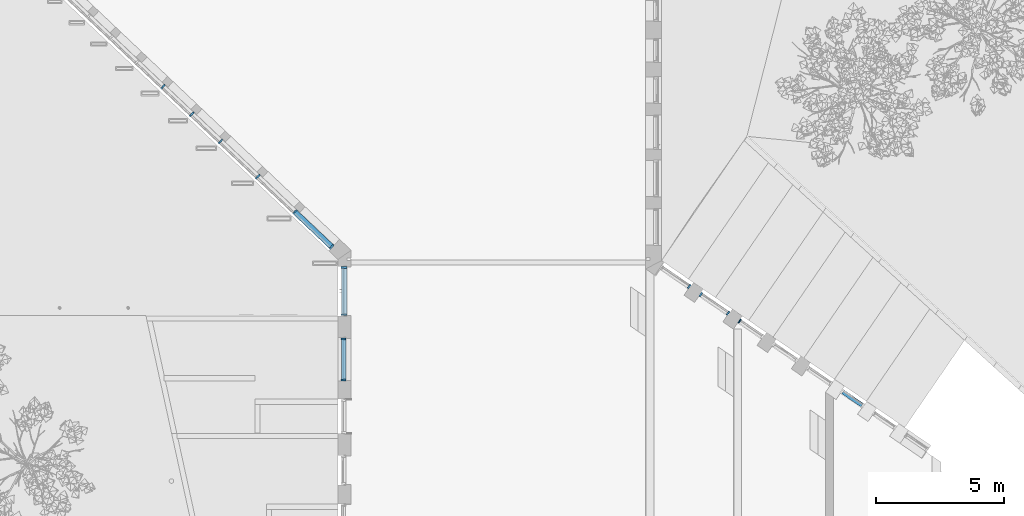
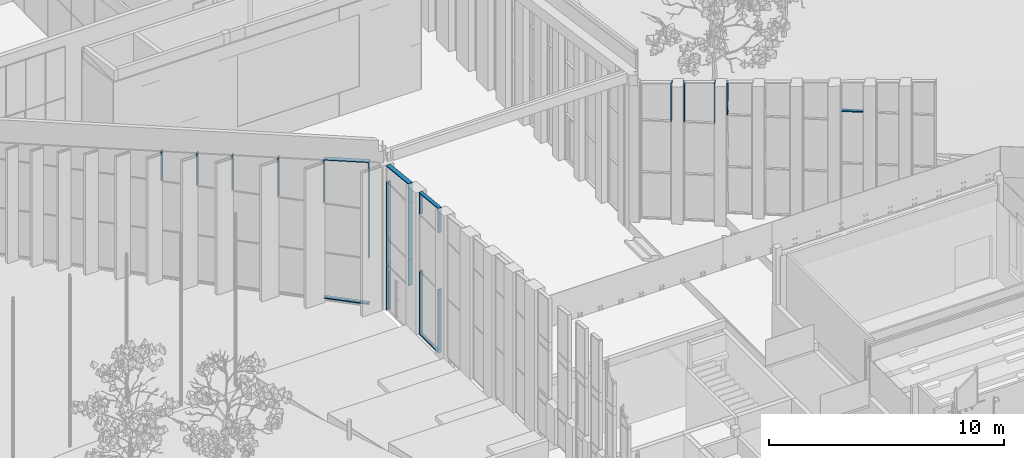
# One storey, part 62 of 246: 27 members, 7 elements without a shape of their own.
"""IFC2X3 building model written with IfcOpenShell, lengths in millimetres."""

import ifcopenshell
import ifcopenshell.guid

model = None  # the IFC model being written
_history = None  # IfcOwnerHistory: only IFC2X3 demands one
_inside = {}  # id of a spatial element -> (the spatial element, [elements in it])
_under = {}  # id of a project, library or spatial element -> (it, [spatial elements below it])
_declared = {}  # id of a project -> (the project, [libraries it declares])
_typed = {}  # id of a type object -> (the type object, [elements of that type])
_made_of = {}  # id of a material, layer set ... -> (it, [elements and type objects made of it])


def new_model(schema):
    """Start an empty IFC model of exactly this schema.

    Asked for "IFC4X3", IfcOpenShell would pick the latest addendum, in which some entities
    have other attributes; the version numbers below select the first issue.
    IFC2X3 requires an IfcOwnerHistory on every rooted entity: one is made here for all.
    """
    global model, _history
    if schema == "IFC4X3":
        model = ifcopenshell.file(schema_version=(4, 3, 0, 0))
    else:
        model = ifcopenshell.file(schema=schema)
    _inside.clear()
    _under.clear()
    _declared.clear()
    _typed.clear()
    _made_of.clear()
    _history = None
    if model.schema == "IFC2X3":
        org = make("IfcOrganization", Name="unknown")
        user = make(
            "IfcPersonAndOrganization",
            ThePerson=make("IfcPerson", FamilyName="unknown"),
            TheOrganization=org,
        )
        app = make(
            "IfcApplication",
            ApplicationDeveloper=org,
            Version="unknown",
            ApplicationFullName="unknown",
            ApplicationIdentifier="unknown",
        )
        _history = make(
            "IfcOwnerHistory",
            OwningUser=user,
            OwningApplication=app,
            ChangeAction="ADDED",
            CreationDate=0,
        )
    return model


def make(cls, **values):
    """One entity of the class cls with the attributes given. An attribute that is None is left unset."""
    return model.create_entity(
        cls, **{name: value for name, value in values.items() if value is not None}
    )


def entity(cls, *values):
    """Any entity or typed value of the class cls, its attributes in the order of the schema. None: left unset."""
    e = model.create_entity(cls)
    for i, value in enumerate(values):
        if value is not None:
            e[i] = value
    return e


def rooted(cls, **values):
    """An entity with a GlobalId (a new one), such as an element, a storey or a relation."""
    return make(cls, GlobalId=ifcopenshell.guid.new(), OwnerHistory=_history, **values)


def si_unit(unit_type, name, prefix=None):
    """IfcSIUnit, for example si_unit("LENGTHUNIT", "METRE", prefix="MILLI")."""
    return make("IfcSIUnit", UnitType=unit_type, Prefix=prefix, Name=name)


def converted_unit(unit_type, name, factor, base, dimensions=None, offset=None):
    """IfcConversionBasedUnit, such as the inch: factor (a typed value) times the base unit."""
    return make(
        "IfcConversionBasedUnit"
        if offset is None
        else "IfcConversionBasedUnitWithOffset",
        ConversionOffset=offset,
        Dimensions=None
        if dimensions is None
        else entity("IfcDimensionalExponents", *dimensions),
        UnitType=unit_type,
        Name=name,
        ConversionFactor=make(
            "IfcMeasureWithUnit", ValueComponent=factor, UnitComponent=base
        ),
    )


def derived_unit(unit_type, elements):
    """IfcDerivedUnit: a product of units, each with its exponent."""
    return make(
        "IfcDerivedUnit",
        Elements=[
            make("IfcDerivedUnitElement", Unit=unit, Exponent=power)
            for unit, power in elements
        ],
        UnitType=unit_type,
    )


def money_unit(currency):
    """IfcMonetaryUnit."""
    return make("IfcMonetaryUnit", Currency=currency)


def assignment(units):
    """IfcUnitAssignment: the units of a project."""
    return None if units is None else make("IfcUnitAssignment", Units=units)


def point(xyz):
    """IfcCartesianPoint."""
    return None if xyz is None else make("IfcCartesianPoint", Coordinates=xyz)


def direction(xyz):
    """IfcDirection."""
    return None if xyz is None else make("IfcDirection", DirectionRatios=xyz)


def frame(location, z_axis=None, x_axis=None):
    """IfcAxis2Placement3D, a coordinate frame: its origin and axes. An axis left out is left unset."""
    return make(
        "IfcAxis2Placement3D",
        Location=point(location),
        Axis=direction(z_axis),
        RefDirection=direction(x_axis),
    )


def origin_with_axes():
    """The frame at (0, 0, 0) with the z axis (0, 0, 1) and the x axis (1, 0, 0) written out."""
    return frame((0.0, 0.0, 0.0), z_axis=(0.0, 0.0, 1.0), x_axis=(1.0, 0.0, 0.0))


def place(relative_to, where):
    """IfcLocalPlacement: puts the frame where relative to a parent placement (None: the world)."""
    return make(
        "IfcLocalPlacement", PlacementRelTo=relative_to, RelativePlacement=where
    )


def context(
    kind, dimensions, precision=None, world=None, true_north=None, identifier=None
):
    """IfcGeometricRepresentationContext, for example the 3D "Model" context."""
    return make(
        "IfcGeometricRepresentationContext",
        ContextIdentifier=identifier,
        ContextType=kind,
        CoordinateSpaceDimension=dimensions,
        Precision=precision,
        WorldCoordinateSystem=world,
        TrueNorth=true_north,
    )


def subcontext(parent, identifier, kind, view, scale=None):
    """IfcGeometricRepresentationSubContext, for example "Body" below "Model"."""
    return make(
        "IfcGeometricRepresentationSubContext",
        ContextIdentifier=identifier,
        ContextType=kind,
        ParentContext=parent,
        TargetScale=scale,
        TargetView=view,
    )


def project(units=None, contexts=None):
    """IfcProject with its units and contexts."""
    return rooted(
        "IfcProject",
        Name="project",
        RepresentationContexts=contexts,
        UnitsInContext=assignment(units),
    )


def spatial(cls, under=None, at=None, **own):
    """A site, building, storey or space (cls), placed at a placement, below another one or the project."""
    s = rooted(cls, ObjectPlacement=at, **own)
    if under is not None:
        _under.setdefault(under.id(), (under, []))[1].append(s)
    return s


def faces_of(points, faces, orient=None, outer=None):
    """IfcFace entities. A face is a list of loops; a loop is a list of indices into points, from 0.

    orient and outer hold one flag for each loop. By default every Orientation is true, the
    first loop of a face is its IfcFaceOuterBound and the others are IfcFaceBound.
    """
    made = []
    for i, loops in enumerate(faces):
        bounds = []
        for j, loop in enumerate(loops):
            is_outer = j == 0 if outer is None else outer[i][j]
            bounds.append(
                make(
                    "IfcFaceOuterBound" if is_outer else "IfcFaceBound",
                    Bound=make("IfcPolyLoop", Polygon=[points[k] for k in loop]),
                    Orientation=True if orient is None else orient[i][j],
                )
            )
        made.append(make("IfcFace", Bounds=bounds))
    return made


def faceted_brep(points, faces, orient=None, outer=None, voids=None):
    """IfcFacetedBrep: a solid bounded by flat faces; with voids (closed shells), ...WithVoids."""
    shared = [point(p) for p in points]
    hull = make("IfcClosedShell", CfsFaces=faces_of(shared, faces, orient, outer))
    if voids is None:
        return make("IfcFacetedBrep", Outer=hull)
    return make(
        "IfcFacetedBrepWithVoids",
        Outer=hull,
        Voids=[
            make(cls, CfsFaces=faces_of(shared, fs, o, b)) for cls, fs, o, b in voids
        ],
    )


def shape(context_of_items, identifier, shape_type, items):
    """IfcShapeRepresentation: the items that make up one representation, for example the "Body"."""
    return make(
        "IfcShapeRepresentation",
        ContextOfItems=context_of_items,
        RepresentationIdentifier=identifier,
        RepresentationType=shape_type,
        Items=items,
    )


def material(Name=None, Category=None):
    """IfcMaterial."""
    return make("IfcMaterial", Name=Name, Category=Category)


def made_of(thing, what):
    """Note that an element or type object is made of a material, layer set ...; save() writes the relation."""
    if what is not None:
        _made_of.setdefault(what.id(), (what, []))[1].append(thing)
    return thing


def type_object(cls, material=None, **own):
    """A type object (cls), such as IfcWallType, which elements share."""
    return made_of(rooted(cls, **own), material)


def element(
    cls,
    number,
    at=None,
    inside=None,
    cuts=None,
    type_object=None,
    material=None,
    context=None,
    identifier="Body",
    shape_type=None,
    held_by="IfcProductDefinitionShape",
    body=None,
    shapes=None,
    **own,
):
    """One element of the class cls, such as IfcWall. Its Tag is "e" and its number.

    at: its placement. inside: the storey or other place that contains it. cuts: it is an
    opening in that element (IfcRelVoidsElement). A single representation is given by context,
    identifier, shape_type and body (its items); several are given by shapes. held_by: the class
    of the entity that holds the representations. save() writes the other relations.
    """
    e = rooted(cls, Tag="e%d" % number, ObjectPlacement=at, **own)
    if body is not None:
        shapes = [shape(context, identifier, shape_type, body)]
    if shapes is not None:
        e.Representation = make(held_by, Representations=shapes)
    if inside is not None:
        _inside.setdefault(inside.id(), (inside, []))[1].append(e)
    if cuts is not None:
        rooted(
            "IfcRelVoidsElement", RelatingBuildingElement=cuts, RelatedOpeningElement=e
        )
    if type_object is not None:
        _typed.setdefault(type_object.id(), (type_object, []))[1].append(e)
    return made_of(e, material)


def aggregate(whole, parts):
    """IfcRelAggregates: a whole, such as a stair, and the parts it consists of."""
    return rooted("IfcRelAggregates", RelatingObject=whole, RelatedObjects=parts)


def save(model, path):
    """Write the relations noted so far, then the file.

    IfcRelAggregates (storeys below a building ...), IfcRelContainedInSpatialStructure (elements
    in a storey), IfcRelDefinesByType, IfcRelAssociatesMaterial and IfcRelDeclares: one each for
    every whole, place, type object, material and project.
    """
    for whole, parts in _under.values():
        aggregate(whole, parts)
    for where, things in _inside.values():
        rooted(
            "IfcRelContainedInSpatialStructure",
            RelatedElements=things,
            RelatingStructure=where,
        )
    for kind, things in _typed.values():
        rooted("IfcRelDefinesByType", RelatedObjects=things, RelatingType=kind)
    for what, things in _made_of.values():
        rooted("IfcRelAssociatesMaterial", RelatedObjects=things, RelatingMaterial=what)
    for by, libraries in _declared.values():
        rooted("IfcRelDeclares", RelatingContext=by, RelatedDefinitions=libraries)
    model.write(path)


model = new_model("IFC2X3")

# Units and contexts
model_context = context("Model", 3, precision=0.01, world=origin_with_axes(), true_north=direction((0.0, 1.0)))
body_context = subcontext(model_context, "Body", "Model", "MODEL_VIEW")
ifc_project = project(units=[si_unit("LENGTHUNIT", "METRE", prefix="MILLI"), si_unit("AREAUNIT", "SQUARE_METRE"), si_unit("VOLUMEUNIT", "CUBIC_METRE"), converted_unit("PLANEANGLEUNIT", "DEGREE", entity("IfcPlaneAngleMeasure", 0.0174532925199), si_unit("PLANEANGLEUNIT", "RADIAN"), dimensions=[0, 0, 0, 0, 0, 0, 0]), si_unit("SOLIDANGLEUNIT", "STERADIAN"), money_unit("EUR"), converted_unit("TIMEUNIT", "Year", entity("IfcTimeMeasure", 31556926.0), si_unit("TIMEUNIT", "SECOND"), dimensions=[0, 0, 1, 0, 0, 0, 0]), si_unit("MASSUNIT", "GRAM", prefix="KILO"), si_unit("THERMODYNAMICTEMPERATUREUNIT", "DEGREE_CELSIUS"), si_unit("LUMINOUSINTENSITYUNIT", "LUMEN"), si_unit("ENERGYUNIT", "JOULE", prefix="MEGA"), derived_unit("THERMALCONDUCTANCEUNIT", [(si_unit("POWERUNIT", "WATT"), 1), (si_unit("LENGTHUNIT", "METRE"), -1), (si_unit("THERMODYNAMICTEMPERATUREUNIT", "KELVIN"), -1)]), derived_unit("SPECIFICHEATCAPACITYUNIT", [(si_unit("ENERGYUNIT", "JOULE"), 1), (si_unit("MASSUNIT", "GRAM", prefix="KILO"), -1), (si_unit("THERMODYNAMICTEMPERATUREUNIT", "KELVIN"), -1)]), derived_unit("MASSDENSITYUNIT", [(si_unit("MASSUNIT", "GRAM", prefix="KILO"), 1), (si_unit("VOLUMEUNIT", "CUBIC_METRE"), -1)])], contexts=[model_context])

# Site, building, storey
site_placement = place(None, origin_with_axes())
site = spatial("IfcSite", under=ifc_project, at=site_placement, Name="L.Koidula tn 11b", CompositionType="ELEMENT")
building_placement = place(site_placement, origin_with_axes())
building = spatial("IfcBuilding", under=site, at=building_placement, Name="Rakvere Riigigümnaasium", CompositionType="ELEMENT")
storey_placement = place(building_placement, origin_with_axes())
storey = spatial("IfcBuildingStorey", under=building, at=storey_placement, Name="1.korrus 0,00", CompositionType="ELEMENT", Elevation=0.0)

# Curtain wall, member
curtain_wall_type = type_object("IfcCurtainWallType", Name="Curtain Wall Type", PredefinedType="NOTDEFINED")
curtain_wall_1_placement = place(storey_placement, frame((55097.3440674, 38688.315244, 1395.00000109), z_axis=(0.0, 0.0, 1.0), x_axis=(1.0, 0.0, 0.0)))
curtain_wall_1 = element("IfcCurtainWall", 1, at=curtain_wall_1_placement, inside=storey, type_object=curtain_wall_type, Name="KLF-06-24")
ifc_material = material(Name="Alumiiniumprofiil (RAL 7021)")
member_type_1 = type_object("IfcMemberType", Name="Transom Frame 50 x 170", PredefinedType="MULLION")
member_1_placement = place(curtain_wall_1_placement, frame((-418.351684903, 286.937825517, 5100.00005693), z_axis=(0.824666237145, -0.565619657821, 0.0), x_axis=(0.0, 0.0, 1.0)))
member_1 = element("IfcMember", 2, at=member_1_placement, type_object=member_type_1, material=ifc_material, Name="KLF-06-24-Profiilid", ObjectType="MULLION", context=body_context, shape_type="Brep", body=[
    faceted_brep([(-12.0, 26.0, 964.446642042), (-12.0, -26.0, 964.446642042), (-25.0, -26.0, 964.448096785), (-25.0, -46.0, 964.448096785), (25.0, -46.0, 964.442501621), (25.0, -26.0, 964.442501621), (12.0, -26.0, 964.443956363), (12.0, 26.0, 964.443956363), (25.0, 26.0, 964.442501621), (25.0, 124.0, 964.442501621), (-25.0, 124.0, 964.448096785), (-25.0, 26.0, 964.448096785), (-12.0, 26.0, 50.0), (-12.0, -26.0, 50.0), (-25.0, -26.0, 50.0), (-25.0, -46.0, 50.0), (25.0, -46.0, 50.0), (25.0, -26.0, 50.0), (12.0, -26.0, 50.0), (12.0, 26.0, 50.0), (25.0, 26.0, 50.0), (25.0, 124.0, 50.0), (-25.0, 124.0, 50.0), (-25.0, 26.0, 50.0)], [[[0, 1, 2, 3, 4, 5, 6, 7, 8, 9, 10, 11]], [[0, 12, 13, 1]], [[1, 13, 14, 2]], [[14, 15, 3, 2]], [[4, 3, 15, 16]], [[17, 5, 4, 16]], [[5, 17, 18, 6]], [[7, 6, 18, 19]], [[8, 7, 19, 20]], [[8, 20, 21, 9]], [[10, 9, 21, 22]], [[11, 10, 22, 23]], [[11, 23, 12, 0]], [[13, 12, 23, 22, 21, 20, 19, 18, 17, 16, 15, 14]]]),
])
aggregate(curtain_wall_1, [member_1])

# Curtain wall, members
curtain_wall_2_placement = place(storey_placement, frame((35166.0871538, 40185.4556279, 444.999899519), z_axis=(0.0, 0.0, 1.0), x_axis=(1.0, 0.0, 0.0)))
curtain_wall_2 = element("IfcCurtainWall", 3, at=curtain_wall_2_placement, inside=storey, type_object=curtain_wall_type, Name="KLF-03-02")
member_type_2 = type_object("IfcMemberType", Name="Boundary Frame 50 x 170", PredefinedType="MULLION")
member_2_placement = place(curtain_wall_2_placement, frame((0.0, 824.999897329, 0.0), z_axis=(0.0, 0.0, 1.0), x_axis=(0.0, 1.0, 0.0)))
member_2 = element("IfcMember", 4, at=member_2_placement, type_object=member_type_2, material=ifc_material, Name="KLF-03-52-Profiilid", ObjectType="MULLION", context=body_context, shape_type="Brep", body=[
    faceted_brep([(-37.0, -26.0, 3300.00011735), (-50.0, -26.0, 3300.00011735), (-50.0, -124.0, 3300.00011735), (0.0, -124.0, 3300.00011735), (0.0, 46.0, 3300.00011735), (-50.0, 46.0, 3300.00011735), (-50.0, 26.0, 3300.00011735), (-37.0, 26.0, 3300.00011735), (-37.0, -26.0, 37.0), (-50.0, -26.0, 50.0), (-50.0, -124.0, 50.0), (0.0, -124.0, 0.0), (0.0, 46.0, 0.0), (-50.0, 46.0, 50.0), (-50.0, 26.0, 50.0), (-37.0, 26.0, 37.0)], [[[0, 1, 2, 3, 4, 5, 6, 7]], [[0, 8, 9, 1]], [[9, 10, 2, 1]], [[2, 10, 11, 3]], [[3, 11, 12, 4]], [[4, 12, 13, 5]], [[6, 5, 13, 14]], [[14, 15, 7, 6]], [[7, 15, 8, 0]], [[8, 15, 14, 13, 12, 11, 10, 9]]]),
])
member_3_placement = place(curtain_wall_2_placement, frame((0.0, 824.999897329, 0.0), z_axis=(0.0, -1.0, 0.0), x_axis=(0.0, 0.0, 1.0)))
member_3 = element("IfcMember", 5, at=member_3_placement, type_object=member_type_2, material=ifc_material, Name="KLF-03-45-Profiilid", ObjectType="MULLION", context=body_context, shape_type="Brep", body=[
    faceted_brep([(37.0, -26.0, 1612.99979053), (37.0, 26.0, 1612.99979053), (50.0, 26.0, 1599.99979053), (50.0, 46.0, 1599.99979053), (0.0, 46.0, 1649.99979053), (0.0, -124.0, 1649.99979053), (50.0, -124.0, 1599.99979053), (50.0, -26.0, 1599.99979053), (37.0, -26.0, 37.0), (37.0, 26.0, 37.0), (50.0, 26.0, 50.0), (50.0, 46.0, 50.0), (0.0, 46.0, 0.0), (0.0, -124.0, 0.0), (50.0, -124.0, 50.0), (50.0, -26.0, 50.0)], [[[0, 1, 2, 3, 4, 5, 6, 7]], [[1, 0, 8, 9]], [[10, 2, 1, 9]], [[2, 10, 11, 3]], [[4, 3, 11, 12]], [[5, 4, 12, 13]], [[6, 5, 13, 14]], [[15, 7, 6, 14]], [[0, 7, 15, 8]], [[8, 15, 14, 13, 12, 11, 10, 9]]]),
])
member_4_placement = place(curtain_wall_2_placement, frame((0.0, 824.999897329, 6245.00011735), z_axis=(0.0, 0.0, 1.0), x_axis=(0.0, 1.0, 0.0)))
member_4 = element("IfcMember", 6, at=member_4_placement, type_object=member_type_2, material=ifc_material, Name="KLF-03-50-Profiilid", ObjectType="MULLION", context=body_context, shape_type="Brep", body=[
    faceted_brep([(-37.0, -26.0, 1085.38247033), (-50.0, -26.0, 1073.67721852), (-50.0, -124.0, 1073.67721852), (0.0, -124.0, 1118.69741779), (0.0, 46.0, 1118.69741779), (-50.0, 46.0, 1073.67721852), (-50.0, 26.0, 1073.67721852), (-37.0, 26.0, 1085.38247033), (-37.0, -26.0, 0.0), (-50.0, -26.0, 0.0), (-50.0, -124.0, 0.0), (0.0, -124.0, 0.0), (0.0, 46.0, 0.0), (-50.0, 46.0, 0.0), (-50.0, 26.0, 0.0), (-37.0, 26.0, 0.0)], [[[0, 1, 2, 3, 4, 5, 6, 7]], [[0, 8, 9, 1]], [[9, 10, 2, 1]], [[10, 11, 3, 2]], [[11, 12, 4, 3]], [[12, 13, 5, 4]], [[6, 5, 13, 14]], [[14, 15, 7, 6]], [[7, 15, 8, 0]], [[8, 15, 14, 13, 12, 11, 10, 9]]]),
])
member_5_placement = place(curtain_wall_2_placement, frame((0.0, -824.999901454, 6245.00011735), z_axis=(0.0, 0.0, 1.0), x_axis=(0.0, 1.0, 0.0)))
member_5 = element("IfcMember", 7, at=member_5_placement, type_object=member_type_2, material=ifc_material, Name="KLF-03-48-Profiilid", ObjectType="MULLION", context=body_context, shape_type="Brep", body=[
    faceted_brep([(37.0, -26.0, 1251.02682757), (37.0, 26.0, 1251.02682757), (50.0, 26.0, 1236.58886393), (50.0, 46.0, 1236.58886393), (0.0, 46.0, 1292.1194933), (0.0, -124.0, 1292.1194933), (50.0, -124.0, 1236.58886393), (50.0, -26.0, 1236.58886393), (37.0, -26.0, -7.00455249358e-08), (37.0, 26.0, -7.00455249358e-08), (50.0, 26.0, -7.00454139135e-08), (50.0, 46.0, -7.00454139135e-08), (0.0, 46.0, -7.00454139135e-08), (0.0, -124.0, -7.00454139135e-08), (50.0, -124.0, -7.00454139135e-08), (50.0, -26.0, -7.00454139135e-08)], [[[0, 1, 2, 3, 4, 5, 6, 7]], [[1, 0, 8, 9]], [[10, 2, 1, 9]], [[2, 10, 11, 3]], [[12, 4, 3, 11]], [[13, 5, 4, 12]], [[14, 6, 5, 13]], [[15, 7, 6, 14]], [[0, 7, 15, 8]], [[8, 15, 14, 13, 12, 11, 10, 9]]]),
])
member_6_placement = place(curtain_wall_2_placement, frame((0.0, -824.999893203, 0.0), z_axis=(0.0, 0.0, 1.0), x_axis=(0.0, 1.0, 0.0)))
member_6 = element("IfcMember", 8, at=member_6_placement, type_object=member_type_2, material=ifc_material, Name="KLF-03-46-Profiilid", ObjectType="MULLION", context=body_context, shape_type="Brep", body=[
    faceted_brep([(37.0, -26.0, 3300.00011742), (37.0, 26.0, 3300.00011742), (50.0, 26.0, 3300.00011742), (50.0, 46.0, 3300.00011742), (0.0, 46.0, 3300.00011742), (0.0, -124.0, 3300.00011742), (50.0, -124.0, 3300.00011742), (50.0, -26.0, 3300.00011742), (37.0, -26.0, 37.0), (37.0, 26.0, 37.0), (50.0, 26.0, 50.0), (50.0, 46.0, 50.0), (0.0, 46.0, 0.0), (0.0, -124.0, 0.0), (50.0, -124.0, 50.0), (50.0, -26.0, 50.0)], [[[0, 1, 2, 3, 4, 5, 6, 7]], [[1, 0, 8, 9]], [[10, 2, 1, 9]], [[2, 10, 11, 3]], [[4, 3, 11, 12]], [[5, 4, 12, 13]], [[6, 5, 13, 14]], [[15, 7, 6, 14]], [[0, 7, 15, 8]], [[8, 15, 14, 13, 12, 11, 10, 9]]]),
])
member_7_placement = place(curtain_wall_2_placement, frame((0.0, -824.999901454, 7537.11961065), z_axis=(0.0, 0.994521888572, -0.104528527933), x_axis=(0.0, -0.104528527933, -0.994521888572)))
member_7 = element("IfcMember", 9, at=member_7_placement, type_object=member_type_2, material=ifc_material, Name="KLF-03-49-Profiilid", ObjectType="MULLION", context=body_context, shape_type="Brep", body=[
    faceted_brep([(37.0, -26.0, 1625.77352283), (37.0, 26.0, 1625.77352283), (50.0, 26.0, 1614.06827102), (50.0, 46.0, 1614.06827102), (0.0, 46.0, 1659.08847029), (0.0, -124.0, 1659.08847029), (50.0, -124.0, 1614.06827102), (50.0, -26.0, 1614.06827102), (37.0, -26.0, 41.0926657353), (37.0, 26.0, 41.0926657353), (50.0, 26.0, 55.530629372), (50.0, 46.0, 55.530629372), (0.0, 46.0, 0.0), (0.0, -124.0, 0.0), (50.0, -124.0, 55.530629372), (50.0, -26.0, 55.530629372)], [[[0, 1, 2, 3, 4, 5, 6, 7]], [[1, 0, 8, 9]], [[10, 2, 1, 9]], [[2, 10, 11, 3]], [[4, 3, 11, 12]], [[5, 4, 12, 13]], [[6, 5, 13, 14]], [[15, 7, 6, 14]], [[0, 7, 15, 8]], [[8, 15, 14, 13, 12, 11, 10, 9]]]),
])
aggregate(curtain_wall_2, [member_2, member_3, member_4, member_5, member_6, member_7])

# Curtain wall, member
curtain_wall_3_placement = place(storey_placement, frame((48188.9005026, 43426.6609741, 465.0), z_axis=(0.0, 0.0, 1.0), x_axis=(1.0, 0.0, 0.0)))
curtain_wall_3 = element("IfcCurtainWall", 10, at=curtain_wall_3_placement, inside=storey, type_object=curtain_wall_type, Name="KLF-06-29")
member_8_placement = place(curtain_wall_3_placement, frame((552.526342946, -378.965146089, 5100.0), z_axis=(9.07030010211e-09, -6.22111209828e-09, 1.0), x_axis=(-0.824666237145, 0.565619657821, 1.09987535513e-08)))
member_8 = element("IfcMember", 11, at=member_8_placement, type_object=member_type_2, material=ifc_material, Name="KLF-06-49-Profiilid", ObjectType="MULLION", context=body_context, shape_type="Brep", body=[
    faceted_brep([(37.0000217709, 26.0, 1979.39665794), (50.0000216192, 26.0, 1965.6010397), (50.0000216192, 124.0, 1965.6010397), (2.22027516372e-05, 124.0, 2018.66110987), (2.22027551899e-05, -46.0, 2018.66110987), (50.0000216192, -46.0, 1965.6010397), (50.0000216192, -26.0, 1965.6010397), (37.0000217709, -26.0, 1979.39665794), (37.0, 26.0, -4.87831108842e-07), (50.0, 26.0, -6.30815399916e-07), (50.0, 124.0, -6.30815399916e-07), (0.0, 124.0, -8.08775268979e-08), (0.0, -46.0, -8.08775268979e-08), (50.0, -46.0, -6.30815399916e-07), (50.0, -26.0, -6.30815399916e-07), (37.0, -26.0, -4.87831108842e-07)], [[[0, 1, 2, 3, 4, 5, 6, 7]], [[0, 8, 9, 1]], [[9, 10, 2, 1]], [[10, 11, 3, 2]], [[11, 12, 4, 3]], [[12, 13, 5, 4]], [[6, 5, 13, 14]], [[14, 15, 7, 6]], [[7, 15, 8, 0]], [[8, 15, 14, 13, 12, 11, 10, 9]]]),
])
aggregate(curtain_wall_3, [member_8])

# Curtain wall, members
curtain_wall_4_placement = place(storey_placement, frame((49706.2862445, 42385.9208959, 465.0), z_axis=(0.0, 0.0, 1.0), x_axis=(1.0, 0.0, 0.0)))
curtain_wall_4 = element("IfcCurtainWall", 12, at=curtain_wall_4_placement, inside=storey, type_object=curtain_wall_type, Name="KLF-06-28")
member_9_placement = place(curtain_wall_4_placement, frame((-552.526384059, 378.965174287, 5100.0), z_axis=(0.0, 0.0, 1.0), x_axis=(-0.824666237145, 0.565619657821, 0.0)))
member_9 = element("IfcMember", 13, at=member_9_placement, type_object=member_type_2, material=ifc_material, Name="KLF-06-49-Profiilid", ObjectType="MULLION", context=body_context, shape_type="Brep", body=[
    faceted_brep([(-37.0, 26.0, 2013.5131106), (-37.0, -26.0, 2013.5131106), (-50.0, -26.0, 2001.26284374), (-50.0, -46.0, 2001.26284374), (0.0, -46.0, 2048.37925473), (0.0, 124.0, 2048.37925473), (-50.0, 124.0, 2001.26284374), (-50.0, 26.0, 2001.26284374), (-37.0, 26.0, 0.0), (-37.0, -26.0, 0.0), (-50.0, -26.0, 0.0), (-50.0, -46.0, 0.0), (0.0, -46.0, 0.0), (0.0, 124.0, 0.0), (-50.0, 124.0, 0.0), (-50.0, 26.0, 0.0)], [[[0, 1, 2, 3, 4, 5, 6, 7]], [[1, 0, 8, 9]], [[10, 2, 1, 9]], [[2, 10, 11, 3]], [[12, 4, 3, 11]], [[13, 5, 4, 12]], [[14, 6, 5, 13]], [[15, 7, 6, 14]], [[0, 7, 15, 8]], [[8, 15, 14, 13, 12, 11, 10, 9]]]),
])
member_10_placement = place(curtain_wall_4_placement, frame((552.526365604, -378.96516163, 5100.0), z_axis=(9.35485957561e-09, -6.41628132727e-09, 1.0), x_axis=(-0.824666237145, 0.565619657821, 1.1343811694e-08)))
member_10 = element("IfcMember", 14, at=member_10_placement, type_object=member_type_2, material=ifc_material, Name="KLF-06-47-Profiilid", ObjectType="MULLION", context=body_context, shape_type="Brep", body=[
    faceted_brep([(37.0000236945, 26.0, 2088.75981612), (50.000023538, 26.0, 2074.96419797), (50.000023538, 124.0, 2074.96419797), (2.41399114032e-05, 124.0, 2128.02426776), (2.41399078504e-05, -46.0, 2128.02426776), (50.000023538, -46.0, 2074.96419797), (50.000023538, -26.0, 2074.96419797), (37.0000236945, -26.0, 2088.75981612), (37.0, 26.0, -1.11773879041e-06), (50.0, 26.0, -1.26520838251e-06), (50.0, 124.0, -1.26520838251e-06), (0.0, 124.0, -6.98017643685e-07), (0.0, -46.0, -6.98017643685e-07), (50.0, -46.0, -1.26520749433e-06), (50.0, -26.0, -1.26520838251e-06), (37.0, -26.0, -1.11773879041e-06)], [[[0, 1, 2, 3, 4, 5, 6, 7]], [[0, 8, 9, 1]], [[9, 10, 2, 1]], [[10, 11, 3, 2]], [[11, 12, 4, 3]], [[12, 13, 5, 4]], [[6, 5, 13, 14]], [[14, 15, 7, 6]], [[7, 15, 8, 0]], [[8, 15, 14, 13, 12, 11, 10, 9]]]),
])
aggregate(curtain_wall_4, [member_9, member_10])

# Curtain wall, member
curtain_wall_5_placement = place(storey_placement, frame((51132.8497103, 41407.4731801, 929.821783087), z_axis=(0.0, 0.0, 1.0), x_axis=(1.0, 0.0, 0.0)))
curtain_wall_5 = element("IfcCurtainWall", 15, at=curtain_wall_5_placement, inside=storey, type_object=curtain_wall_type, Name="KLF-06-27")
member_11_placement = place(curtain_wall_5_placement, frame((-461.812978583, 316.74693004, 6792.87663199), z_axis=(8.25001944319e-09, -5.65849835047e-09, -1.0), x_axis=(0.824666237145, -0.565619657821, 1.00040703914e-08)))
member_11 = element("IfcMember", 16, at=member_11_placement, type_object=member_type_2, material=ifc_material, Name="KLF-06-48-Profiilid", ObjectType="MULLION", context=body_context, shape_type="Brep", body=[
    faceted_brep([(36.9999830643, 26.0, 1692.87656815), (49.9999830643, 26.0, 1692.87656828), (49.9999830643, 124.0, 1692.87656828), (-1.69356617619e-05, 124.0, 1692.87656778), (-1.69356582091e-05, -46.0, 1692.87656778), (49.9999830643, -46.0, 1692.87656828), (49.9999830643, -26.0, 1692.87656828), (36.9999830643, -26.0, 1692.87656815), (36.9999996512, 26.0, 34.8661421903), (49.9999995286, 26.0, 47.1164083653), (49.9999995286, 124.0, 47.1164083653), (0.0, 124.0, 0.0), (0.0, -46.0, 0.0), (49.9999995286, -46.0, 47.1164083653), (49.9999995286, -26.0, 47.1164083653), (36.9999996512, -26.0, 34.8661421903)], [[[0, 1, 2, 3, 4, 5, 6, 7]], [[0, 8, 9, 1]], [[9, 10, 2, 1]], [[2, 10, 11, 3]], [[3, 11, 12, 4]], [[4, 12, 13, 5]], [[6, 5, 13, 14]], [[14, 15, 7, 6]], [[7, 15, 8, 0]], [[8, 15, 14, 13, 12, 11, 10, 9]]]),
])
aggregate(curtain_wall_5, [member_11])

# Curtain wall, members
curtain_wall_6_placement = place(storey_placement, frame((33997.0353268, 45217.6604975, 0.0), z_axis=(0.0, 0.0, 1.0), x_axis=(1.0, 0.0, 0.0)))
curtain_wall_6 = element("IfcCurtainWall", 17, at=curtain_wall_6_placement, inside=storey, type_object=curtain_wall_type, Name="KLF-02")
member_type_3 = type_object("IfcMemberType", Name="Mullion Frame 50 x 210", PredefinedType="MULLION")
member_12_placement = place(curtain_wall_6_placement, frame((-725.960229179, 687.736683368, 4950.00031279), z_axis=(0.0, 0.0, 1.0), x_axis=(0.725960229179, -0.687736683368, 0.0)))
member_12 = element("IfcMember", 18, at=member_12_placement, type_object=member_type_3, material=ifc_material, Name="KLF-45-Profiilid", ObjectType="MULLION", context=body_context, shape_type="Brep", body=[
    faceted_brep([(-12.0, 26.0, 2230.74192099), (-12.0, -26.0, 2230.74192099), (-25.0, -26.0, 2229.46014797), (-25.0, -56.0, 2229.46014797), (25.0, -56.0, 2234.39004419), (25.0, -26.0, 2234.39004419), (12.0, -26.0, 2233.10827118), (12.0, 26.0, 2233.10827118), (25.0, 26.0, 2234.39004419), (25.0, 154.0, 2234.39004419), (-25.0, 154.0, 2229.46014797), (-25.0, 26.0, 2229.46014797), (-12.0, 26.0, 0.0), (-12.0, -26.0, 0.0), (-25.0, -26.0, 0.0), (-25.0, -56.0, 0.0), (25.0, -56.0, 0.0), (25.0, -26.0, 0.0), (12.0, -26.0, 0.0), (12.0, 26.0, 0.0), (25.0, 26.0, 0.0), (25.0, 154.0, 0.0), (-25.0, 154.0, 0.0), (-25.0, 26.0, 0.0)], [[[0, 1, 2, 3, 4, 5, 6, 7, 8, 9, 10, 11]], [[0, 12, 13, 1]], [[1, 13, 14, 2]], [[14, 15, 3, 2]], [[3, 15, 16, 4]], [[17, 5, 4, 16]], [[5, 17, 18, 6]], [[7, 6, 18, 19]], [[8, 7, 19, 20]], [[8, 20, 21, 9]], [[9, 21, 22, 10]], [[11, 10, 22, 23]], [[11, 23, 12, 0]], [[13, 12, 23, 22, 21, 20, 19, 18, 17, 16, 15, 14]]]),
])
member_13_placement = place(curtain_wall_6_placement, frame((-2177.88068754, 2063.21005011, 4950.00031279), z_axis=(0.0, 0.0, 1.0), x_axis=(0.725960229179, -0.687736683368, 0.0)))
member_13 = element("IfcMember", 19, at=member_13_placement, type_object=member_type_3, material=ifc_material, Name="KLF-46-Profiilid", ObjectType="MULLION", context=body_context, shape_type="Brep", body=[
    faceted_brep([(-12.0, 26.0, 2033.54607216), (-12.0, -26.0, 2033.54607216), (-25.0, -26.0, 2032.26429915), (-25.0, -56.0, 2032.26429915), (25.0, -56.0, 2037.19419537), (25.0, -26.0, 2037.19419537), (12.0, -26.0, 2035.91242235), (12.0, 26.0, 2035.91242235), (25.0, 26.0, 2037.19419537), (25.0, 154.0, 2037.19419537), (-25.0, 154.0, 2032.26429915), (-25.0, 26.0, 2032.26429915), (-12.0, 26.0, 0.0), (-12.0, -26.0, 0.0), (-25.0, -26.0, 0.0), (-25.0, -56.0, 0.0), (25.0, -56.0, 0.0), (25.0, -26.0, 0.0), (12.0, -26.0, 0.0), (12.0, 26.0, 0.0), (25.0, 26.0, 0.0), (25.0, 154.0, 0.0), (-25.0, 154.0, 0.0), (-25.0, 26.0, 0.0)], [[[0, 1, 2, 3, 4, 5, 6, 7, 8, 9, 10, 11]], [[0, 12, 13, 1]], [[1, 13, 14, 2]], [[14, 15, 3, 2]], [[3, 15, 16, 4]], [[17, 5, 4, 16]], [[5, 17, 18, 6]], [[7, 6, 18, 19]], [[8, 7, 19, 20]], [[8, 20, 21, 9]], [[9, 21, 22, 10]], [[11, 10, 22, 23]], [[11, 23, 12, 0]], [[13, 12, 23, 22, 21, 20, 19, 18, 17, 16, 15, 14]]]),
])
member_14_placement = place(curtain_wall_6_placement, frame((-3629.80114589, 3438.68341684, 4950.00031279), z_axis=(0.0, 0.0, 1.0), x_axis=(0.725960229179, -0.687736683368, 0.0)))
member_14 = element("IfcMember", 20, at=member_14_placement, type_object=member_type_3, material=ifc_material, Name="KLF-47-Profiilid", ObjectType="MULLION", context=body_context, shape_type="Brep", body=[
    faceted_brep([(-12.0, 26.0, 1836.35022333), (-12.0, -26.0, 1836.35022333), (-25.0, -26.0, 1835.06845032), (-25.0, -56.0, 1835.06845032), (25.0, -56.0, 1839.99834654), (25.0, -26.0, 1839.99834654), (12.0, -26.0, 1838.71657352), (12.0, 26.0, 1838.71657352), (25.0, 26.0, 1839.99834654), (25.0, 154.0, 1839.99834654), (-25.0, 154.0, 1835.06845032), (-25.0, 26.0, 1835.06845032), (-12.0, 26.0, 0.0), (-12.0, -26.0, 0.0), (-25.0, -26.0, 0.0), (-25.0, -56.0, 0.0), (25.0, -56.0, 0.0), (25.0, -26.0, 0.0), (12.0, -26.0, 0.0), (12.0, 26.0, 0.0), (25.0, 26.0, 0.0), (25.0, 154.0, 0.0), (-25.0, 154.0, 0.0), (-25.0, 26.0, 0.0)], [[[0, 1, 2, 3, 4, 5, 6, 7, 8, 9, 10, 11]], [[0, 12, 13, 1]], [[1, 13, 14, 2]], [[14, 15, 3, 2]], [[3, 15, 16, 4]], [[17, 5, 4, 16]], [[5, 17, 18, 6]], [[7, 6, 18, 19]], [[8, 7, 19, 20]], [[8, 20, 21, 9]], [[9, 21, 22, 10]], [[11, 10, 22, 23]], [[11, 23, 12, 0]], [[13, 12, 23, 22, 21, 20, 19, 18, 17, 16, 15, 14]]]),
])
member_15_placement = place(curtain_wall_6_placement, frame((-4755.03950112, 4504.67527606, 4950.00031279), z_axis=(0.0, 0.0, 1.0), x_axis=(0.725960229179, -0.687736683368, 0.0)))
member_15 = element("IfcMember", 21, at=member_15_placement, type_object=member_type_3, material=ifc_material, Name="KLF-48-Profiilid", ObjectType="MULLION", context=body_context, shape_type="Brep", body=[
    faceted_brep([(-12.0, 26.0, 1683.52344049), (-12.0, -26.0, 1683.52344049), (-25.0, -26.0, 1682.24166747), (-25.0, -56.0, 1682.24166747), (25.0, -56.0, 1687.1715637), (25.0, -26.0, 1687.1715637), (12.0, -26.0, 1685.88979068), (12.0, 26.0, 1685.88979068), (25.0, 26.0, 1687.1715637), (25.0, 154.0, 1687.1715637), (-25.0, 154.0, 1682.24166747), (-25.0, 26.0, 1682.24166747), (-12.0, 26.0, 0.0), (-12.0, -26.0, 0.0), (-25.0, -26.0, 0.0), (-25.0, -56.0, 0.0), (25.0, -56.0, 0.0), (25.0, -26.0, 0.0), (12.0, -26.0, 0.0), (12.0, 26.0, 0.0), (25.0, 26.0, 0.0), (25.0, 154.0, 0.0), (-25.0, 154.0, 0.0), (-25.0, 26.0, 0.0)], [[[0, 1, 2, 3, 4, 5, 6, 7, 8, 9, 10, 11]], [[0, 12, 13, 1]], [[1, 13, 14, 2]], [[14, 15, 3, 2]], [[3, 15, 16, 4]], [[17, 5, 4, 16]], [[5, 17, 18, 6]], [[7, 6, 18, 19]], [[8, 7, 19, 20]], [[8, 20, 21, 9]], [[9, 21, 22, 10]], [[11, 10, 22, 23]], [[11, 23, 12, 0]], [[13, 12, 23, 22, 21, 20, 19, 18, 17, 16, 15, 14]]]),
])
member_16_placement = place(curtain_wall_6_placement, frame((-5880.27785635, 5570.66713528, 4950.00031279), z_axis=(0.0, 0.0, 1.0), x_axis=(0.725960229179, -0.687736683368, 0.0)))
member_16 = element("IfcMember", 22, at=member_16_placement, type_object=member_type_3, material=ifc_material, Name="KLF-49-Profiilid", ObjectType="MULLION", context=body_context, shape_type="Brep", body=[
    faceted_brep([(-12.0, 26.0, 1530.69665765), (-12.0, -26.0, 1530.69665765), (-25.0, -26.0, 1529.41488463), (-25.0, -56.0, 1529.41488463), (25.0, -56.0, 1534.34478085), (25.0, -26.0, 1534.34478085), (12.0, -26.0, 1533.06300784), (12.0, 26.0, 1533.06300784), (25.0, 26.0, 1534.34478085), (25.0, 154.0, 1534.34478085), (-25.0, 154.0, 1529.41488463), (-25.0, 26.0, 1529.41488463), (-12.0, 26.0, 0.0), (-12.0, -26.0, 0.0), (-25.0, -26.0, 0.0), (-25.0, -56.0, 0.0), (25.0, -56.0, 0.0), (25.0, -26.0, 0.0), (12.0, -26.0, 0.0), (12.0, 26.0, 0.0), (25.0, 26.0, 0.0), (25.0, 154.0, 0.0), (-25.0, 154.0, 0.0), (-25.0, 26.0, 0.0)], [[[0, 1, 2, 3, 4, 5, 6, 7, 8, 9, 10, 11]], [[0, 12, 13, 1]], [[1, 13, 14, 2]], [[14, 15, 3, 2]], [[3, 15, 16, 4]], [[17, 5, 4, 16]], [[5, 17, 18, 6]], [[7, 6, 18, 19]], [[8, 7, 19, 20]], [[8, 20, 21, 9]], [[9, 21, 22, 10]], [[11, 10, 22, 23]], [[11, 23, 12, 0]], [[13, 12, 23, 22, 21, 20, 19, 18, 17, 16, 15, 14]]]),
])
member_type_4 = type_object("IfcMemberType", Name="Boundary Frame 50 x 210", PredefinedType="MULLION")
member_17_placement = place(curtain_wall_6_placement, frame((725.960229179, -687.736683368, 0.0), z_axis=(-0.725960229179, 0.687736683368, 0.0), x_axis=(0.0, 0.0, 1.0)))
member_17 = element("IfcMember", 23, at=member_17_placement, type_object=member_type_4, material=ifc_material, Name="KLF-89-Profiilid", ObjectType="MULLION", context=body_context, shape_type="Brep", body=[
    faceted_brep([(37.0, 26.0, 2000.0), (50.0, 26.0, 2000.0), (50.0, 154.0, 2000.0), (0.0, 154.0, 2000.0), (0.0, -56.0, 2000.0), (50.0, -56.0, 2000.0), (50.0, -26.0, 2000.0), (37.0, -26.0, 2000.0), (37.0, 26.0, 37.0), (50.0, 26.0, 50.0), (50.0, 154.0, 50.0), (0.0, 154.0, 0.0), (0.0, -56.0, 0.0), (50.0, -56.0, 50.0), (50.0, -26.0, 50.0), (37.0, -26.0, 37.0)], [[[0, 1, 2, 3, 4, 5, 6, 7]], [[0, 8, 9, 1]], [[9, 10, 2, 1]], [[2, 10, 11, 3]], [[3, 11, 12, 4]], [[4, 12, 13, 5]], [[6, 5, 13, 14]], [[14, 15, 7, 6]], [[7, 15, 8, 0]], [[8, 15, 14, 13, 12, 11, 10, 9]]]),
])
member_18_placement = place(curtain_wall_6_placement, frame((725.960229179, -687.736683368, 2400.00031279), z_axis=(0.0, 0.0, 1.0), x_axis=(0.725960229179, -0.687736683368, 0.0)))
member_18 = element("IfcMember", 24, at=member_18_placement, type_object=member_type_4, material=ifc_material, Name="KLF-28-Profiilid", ObjectType="MULLION", context=body_context, shape_type="Brep", body=[
    faceted_brep([(-37.0, 26.0, 2550.0), (-37.0, -26.0, 2550.0), (-50.0, -26.0, 2550.0), (-50.0, -56.0, 2550.0), (0.0, -56.0, 2550.0), (0.0, 154.0, 2550.0), (-50.0, 154.0, 2550.0), (-50.0, 26.0, 2550.0), (-37.0, 26.0, 0.0), (-37.0, -26.0, 0.0), (-50.0, -26.0, 0.0), (-50.0, -56.0, 0.0), (0.0, -56.0, 0.0), (0.0, 154.0, 0.0), (-50.0, 154.0, 0.0), (-50.0, 26.0, 0.0)], [[[0, 1, 2, 3, 4, 5, 6, 7]], [[1, 0, 8, 9]], [[10, 2, 1, 9]], [[2, 10, 11, 3]], [[12, 4, 3, 11]], [[13, 5, 4, 12]], [[14, 6, 5, 13]], [[15, 7, 6, 14]], [[0, 7, 15, 8]], [[8, 15, 14, 13, 12, 11, 10, 9]]]),
])
member_19_placement = place(curtain_wall_6_placement, frame((725.960229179, -687.736683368, 4950.00031279), z_axis=(0.0, 0.0, 1.0), x_axis=(0.725960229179, -0.687736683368, 0.0)))
member_19 = element("IfcMember", 25, at=member_19_placement, type_object=member_type_4, material=ifc_material, Name="KLF-27-Profiilid", ObjectType="MULLION", context=body_context, shape_type="Brep", body=[
    faceted_brep([(-37.0, 26.0, 2438.53585895), (-37.0, -26.0, 2438.53585895), (-50.0, -26.0, 2424.19104869), (-50.0, -56.0, 2424.19104869), (0.0, -56.0, 2479.36339586), (0.0, 154.0, 2479.36339586), (-50.0, 154.0, 2424.19104869), (-50.0, 26.0, 2424.19104869), (-37.0, 26.0, 0.0), (-37.0, -26.0, 0.0), (-50.0, -26.0, 0.0), (-50.0, -56.0, 0.0), (0.0, -56.0, 0.0), (0.0, 154.0, 0.0), (-50.0, 154.0, 0.0), (-50.0, 26.0, 0.0)], [[[0, 1, 2, 3, 4, 5, 6, 7]], [[1, 0, 8, 9]], [[10, 2, 1, 9]], [[2, 10, 11, 3]], [[12, 4, 3, 11]], [[13, 5, 4, 12]], [[14, 6, 5, 13]], [[15, 7, 6, 14]], [[0, 7, 15, 8]], [[8, 15, 14, 13, 12, 11, 10, 9]]]),
])
member_20_placement = place(curtain_wall_6_placement, frame((-725.960229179, 687.736683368, 7232.16785981), z_axis=(0.722457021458, -0.68441792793, 0.0981221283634), x_axis=(0.0712327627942, -0.0674821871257, -0.995174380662)))
member_20 = element("IfcMember", 26, at=member_20_placement, type_object=member_type_4, material=ifc_material, Name="KLF-26-Profiilid", ObjectType="MULLION", context=body_context, shape_type="Brep", body=[
    faceted_brep([(37.0, 26.0, 1968.87050081), (50.0, 26.0, 1954.52569055), (50.0, 154.0, 1954.52569055), (0.0, 154.0, 2009.69803771), (0.0, -56.0, 2009.69803771), (50.0, -56.0, 1954.52569055), (50.0, -26.0, 1954.52569055), (37.0, -26.0, 1968.87050081), (37.0, 26.0, 0.0), (50.0, 26.0, 0.0), (50.0, 154.0, 0.0), (0.0, 154.0, 0.0), (0.0, -56.0, 0.0), (50.0, -56.0, 0.0), (50.0, -26.0, 0.0), (37.0, -26.0, 0.0)], [[[0, 1, 2, 3, 4, 5, 6, 7]], [[0, 8, 9, 1]], [[9, 10, 2, 1]], [[10, 11, 3, 2]], [[11, 12, 4, 3]], [[12, 13, 5, 4]], [[6, 5, 13, 14]], [[14, 15, 7, 6]], [[7, 15, 8, 0]], [[8, 15, 14, 13, 12, 11, 10, 9]]]),
])
aggregate(curtain_wall_6, [member_17, member_18, member_19, member_20, member_12, member_13, member_14, member_15, member_16])

curtain_wall_7_placement = place(storey_placement, frame((35176.0871233, 42850.4555755, -0.000136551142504), z_axis=(0.0, 0.0, 1.0), x_axis=(1.0, 0.0, 0.0)))
curtain_wall_7 = element("IfcCurtainWall", 27, at=curtain_wall_7_placement, inside=storey, type_object=curtain_wall_type, Name="KLF-03-01")
member_21_placement = place(curtain_wall_7_placement, frame((0.0, 949.999916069, 0.0), z_axis=(0.0, 0.0, 1.0), x_axis=(0.0, 1.0, 0.0)))
member_21 = element("IfcMember", 28, at=member_21_placement, type_object=member_type_4, material=ifc_material, Name="KLF-03-20-Profiilid", ObjectType="MULLION", context=body_context, shape_type="Brep", body=[
    faceted_brep([(-37.0, -26.0, 2400.00012036), (-50.0, -26.0, 2400.00012036), (-50.0, -154.0, 2400.00012036), (0.0, -154.0, 2400.00012036), (0.0, 56.0, 2400.00012036), (-50.0, 56.0, 2400.00012036), (-50.0, 26.0, 2400.00012036), (-37.0, 26.0, 2400.00012036), (-37.0, -26.0, 0.0), (-50.0, -26.0, 0.0), (-50.0, -154.0, 0.0), (0.0, -154.0, 0.0), (0.0, 56.0, 0.0), (-50.0, 56.0, 0.0), (-50.0, 26.0, 0.0), (-37.0, 26.0, 0.0)], [[[0, 1, 2, 3, 4, 5, 6, 7]], [[0, 8, 9, 1]], [[9, 10, 2, 1]], [[10, 11, 3, 2]], [[11, 12, 4, 3]], [[12, 13, 5, 4]], [[6, 5, 13, 14]], [[14, 15, 7, 6]], [[7, 15, 8, 0]], [[8, 15, 14, 13, 12, 11, 10, 9]]]),
])
member_22_placement = place(curtain_wall_7_placement, frame((0.0, 949.999916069, 2400.00012036), z_axis=(0.0, 0.0, 1.0), x_axis=(0.0, 1.0, 0.0)))
member_22 = element("IfcMember", 29, at=member_22_placement, type_object=member_type_4, material=ifc_material, Name="KLF-03-19-Profiilid", ObjectType="MULLION", context=body_context, shape_type="Brep", body=[
    faceted_brep([(-37.0, -26.0, 1345.0), (-50.0, -26.0, 1345.0), (-50.0, -154.0, 1345.0), (0.0, -154.0, 1345.0), (0.0, 56.0, 1345.0), (-50.0, 56.0, 1345.0), (-50.0, 26.0, 1345.0), (-37.0, 26.0, 1345.0), (-37.0, -26.0, 0.0), (-50.0, -26.0, 0.0), (-50.0, -154.0, 0.0), (0.0, -154.0, 0.0), (0.0, 56.0, 0.0), (-50.0, 56.0, 0.0), (-50.0, 26.0, 0.0), (-37.0, 26.0, 0.0)], [[[0, 1, 2, 3, 4, 5, 6, 7]], [[0, 8, 9, 1]], [[9, 10, 2, 1]], [[10, 11, 3, 2]], [[11, 12, 4, 3]], [[12, 13, 5, 4]], [[6, 5, 13, 14]], [[14, 15, 7, 6]], [[7, 15, 8, 0]], [[8, 15, 14, 13, 12, 11, 10, 9]]]),
])
member_23_placement = place(curtain_wall_7_placement, frame((0.0, 949.999916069, 3745.00012036), z_axis=(0.0, 0.0, 1.0), x_axis=(0.0, 1.0, 0.0)))
member_23 = element("IfcMember", 30, at=member_23_placement, type_object=member_type_4, material=ifc_material, Name="KLF-03-18-Profiilid", ObjectType="MULLION", context=body_context, shape_type="Brep", body=[
    faceted_brep([(-37.0, -26.0, 2945.0), (-50.0, -26.0, 2945.0), (-50.0, -154.0, 2945.0), (0.0, -154.0, 2945.0), (0.0, 56.0, 2945.0), (-50.0, 56.0, 2945.0), (-50.0, 26.0, 2945.0), (-37.0, 26.0, 2945.0), (-37.0, -26.0, 0.0), (-50.0, -26.0, 0.0), (-50.0, -154.0, 0.0), (0.0, -154.0, 0.0), (0.0, 56.0, 0.0), (-50.0, 56.0, 0.0), (-50.0, 26.0, 0.0), (-37.0, 26.0, 0.0)], [[[0, 1, 2, 3, 4, 5, 6, 7]], [[0, 8, 9, 1]], [[9, 10, 2, 1]], [[10, 11, 3, 2]], [[11, 12, 4, 3]], [[12, 13, 5, 4]], [[6, 5, 13, 14]], [[14, 15, 7, 6]], [[7, 15, 8, 0]], [[8, 15, 14, 13, 12, 11, 10, 9]]]),
])
member_24_placement = place(curtain_wall_7_placement, frame((0.0, -949.999916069, 6690.00012036), z_axis=(0.0, 0.0, 1.0), x_axis=(0.0, 1.0, 0.0)))
member_24 = element("IfcMember", 31, at=member_24_placement, type_object=member_type_4, material=ifc_material, Name="KLF-03-15-Profiilid", ObjectType="MULLION", context=body_context, shape_type="Brep", body=[
    faceted_brep([(37.0, -26.0, 984.062121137), (37.0, 26.0, 984.062121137), (50.0, 26.0, 969.624158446), (50.0, 56.0, 969.624158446), (0.0, 56.0, 1025.15478418), (0.0, -154.0, 1025.15478418), (50.0, -154.0, 969.624158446), (50.0, -26.0, 969.624158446), (37.0, -26.0, -3.39555938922e-07), (37.0, 26.0, -3.39555938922e-07), (50.0, 26.0, -3.395558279e-07), (50.0, 56.0, -3.395558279e-07), (0.0, 56.0, -3.395558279e-07), (0.0, -154.0, -3.395558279e-07), (50.0, -154.0, -3.395558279e-07), (50.0, -26.0, -3.395558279e-07)], [[[0, 1, 2, 3, 4, 5, 6, 7]], [[1, 0, 8, 9]], [[10, 2, 1, 9]], [[2, 10, 11, 3]], [[12, 4, 3, 11]], [[13, 5, 4, 12]], [[14, 6, 5, 13]], [[15, 7, 6, 14]], [[0, 7, 15, 8]], [[8, 15, 14, 13, 12, 11, 10, 9]]]),
])
member_25_placement = place(curtain_wall_7_placement, frame((0.0, -949.999876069, 3745.00012036), z_axis=(0.0, -1.35822330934e-08, 1.0), x_axis=(0.0, 1.0, 1.35822330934e-08)))
member_25 = element("IfcMember", 32, at=member_25_placement, type_object=member_type_4, material=ifc_material, Name="KLF-03-14-Profiilid", ObjectType="MULLION", context=body_context, shape_type="Brep", body=[
    faceted_brep([(37.0, -26.0, 2945.00000034), (37.0, 26.0, 2945.00000034), (50.0, 26.0, 2945.00000034), (50.0, 56.0, 2945.00000034), (0.0, 56.0, 2945.00000034), (0.0, -154.0, 2945.00000034), (50.0, -154.0, 2945.00000034), (50.0, -26.0, 2945.00000034), (37.0, -26.0, -3.39555494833e-07), (37.0, 26.0, -3.39555494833e-07), (50.0, 26.0, -3.39555716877e-07), (50.0, 56.0, -3.39555716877e-07), (0.0, 56.0, -3.39555716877e-07), (0.0, -154.0, -3.39555716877e-07), (50.0, -154.0, -3.39555716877e-07), (50.0, -26.0, -3.39555716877e-07)], [[[0, 1, 2, 3, 4, 5, 6, 7]], [[1, 0, 8, 9]], [[10, 2, 1, 9]], [[2, 10, 11, 3]], [[12, 4, 3, 11]], [[13, 5, 4, 12]], [[14, 6, 5, 13]], [[15, 7, 6, 14]], [[0, 7, 15, 8]], [[8, 15, 14, 13, 12, 11, 10, 9]]]),
])
member_26_placement = place(curtain_wall_7_placement, frame((0.0, -949.999876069, 2400.00012036), z_axis=(0.0, 0.0, 1.0), x_axis=(0.0, 1.0, 0.0)))
member_26 = element("IfcMember", 33, at=member_26_placement, type_object=member_type_4, material=ifc_material, Name="KLF-03-13-Profiilid", ObjectType="MULLION", context=body_context, shape_type="Brep", body=[
    faceted_brep([(37.0, -26.0, 1345.00000034), (37.0, 26.0, 1345.00000034), (50.0, 26.0, 1345.00000034), (50.0, 56.0, 1345.00000034), (0.0, 56.0, 1345.00000034), (0.0, -154.0, 1345.00000034), (50.0, -154.0, 1345.00000034), (50.0, -26.0, 1345.00000034), (37.0, -26.0, 0.0), (37.0, 26.0, 0.0), (50.0, 26.0, 0.0), (50.0, 56.0, 0.0), (0.0, 56.0, 0.0), (0.0, -154.0, 0.0), (50.0, -154.0, 0.0), (50.0, -26.0, 0.0)], [[[0, 1, 2, 3, 4, 5, 6, 7]], [[1, 0, 8, 9]], [[10, 2, 1, 9]], [[2, 10, 11, 3]], [[12, 4, 3, 11]], [[13, 5, 4, 12]], [[14, 6, 5, 13]], [[15, 7, 6, 14]], [[0, 7, 15, 8]], [[8, 15, 14, 13, 12, 11, 10, 9]]]),
])
member_27_placement = place(curtain_wall_7_placement, frame((0.0, -949.999916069, 7715.15490454), z_axis=(0.0, 0.994521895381, -0.104528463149), x_axis=(0.0, -0.104528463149, -0.994521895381)))
member_27 = element("IfcMember", 34, at=member_27_placement, type_object=member_type_4, material=ifc_material, Name="KLF-03-16-Profiilid", ObjectType="MULLION", context=body_context, shape_type="Brep", body=[
    faceted_brep([(37.0, -26.0, 1877.15061272), (37.0, 26.0, 1877.15061272), (50.0, 26.0, 1865.44536014), (50.0, 56.0, 1865.44536014), (0.0, 56.0, 1910.46556236), (0.0, -154.0, 1910.46556236), (50.0, -154.0, 1865.44536014), (50.0, -26.0, 1865.44536014), (37.0, -26.0, 41.0926630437), (37.0, 26.0, 41.0926630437), (50.0, 26.0, 55.5306257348), (50.0, 56.0, 55.5306257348), (0.0, 56.0, 0.0), (0.0, -154.0, 0.0), (50.0, -154.0, 55.5306257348), (50.0, -26.0, 55.5306257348)], [[[0, 1, 2, 3, 4, 5, 6, 7]], [[1, 0, 8, 9]], [[10, 2, 1, 9]], [[2, 10, 11, 3]], [[4, 3, 11, 12]], [[5, 4, 12, 13]], [[6, 5, 13, 14]], [[15, 7, 6, 14]], [[0, 7, 15, 8]], [[8, 15, 14, 13, 12, 11, 10, 9]]]),
])
aggregate(curtain_wall_7, [member_21, member_22, member_23, member_24, member_25, member_26, member_27])

save(model, "model.ifc")
